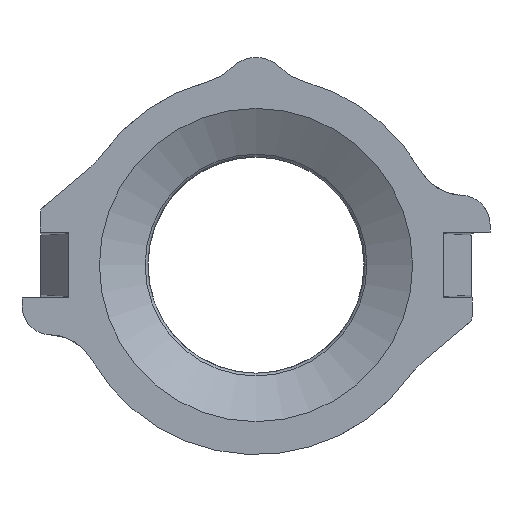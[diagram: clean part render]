
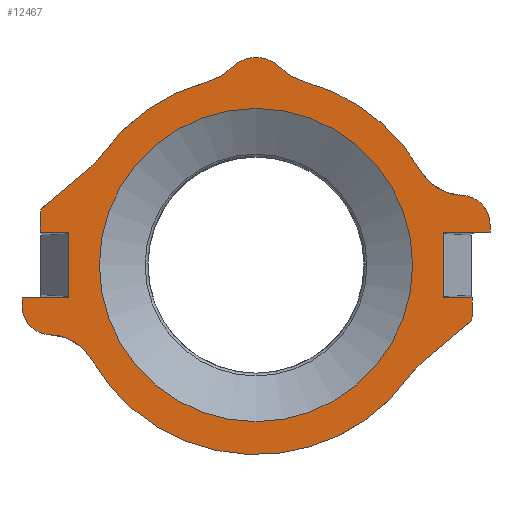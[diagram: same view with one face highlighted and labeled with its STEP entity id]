
A CAD part, top view. The second image highlights one B-rep face of the part: STEP entity #12467.
In plain terms, the highlighted planar face has unit normal (0, 0, 1).
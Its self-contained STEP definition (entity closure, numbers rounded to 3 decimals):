
#71=ELLIPSE('',#13084,0.7,0.7);
#72=ELLIPSE('',#13090,0.7,0.7);
#207=CIRCLE('',#12925,13.051);
#210=CIRCLE('',#12929,2.8);
#274=CIRCLE('',#13072,5.);
#278=CIRCLE('',#13078,5.);
#279=CIRCLE('',#13080,2.404);
#280=CIRCLE('',#13081,4.2);
#281=CIRCLE('',#13082,15.8);
#282=CIRCLE('',#13083,5.1);
#283=CIRCLE('',#13085,2.404);
#284=CIRCLE('',#13086,4.2);
#285=CIRCLE('',#13087,15.8);
#286=CIRCLE('',#13088,15.8);
#287=CIRCLE('',#13089,5.1);
#638=LINE('',#17059,#1326);
#643=LINE('',#17070,#1331);
#681=LINE('',#17354,#1369);
#687=LINE('',#17365,#1375);
#703=LINE('',#17462,#1391);
#724=LINE('',#17545,#1412);
#740=LINE('',#17582,#1428);
#757=LINE('',#17681,#1445);
#777=LINE('',#17794,#1465);
#778=LINE('',#17804,#1466);
#779=LINE('',#17808,#1467);
#780=LINE('',#17818,#1468);
#1326=VECTOR('',#14002,1000.);
#1331=VECTOR('',#14009,1000.);
#1369=VECTOR('',#14131,1000.);
#1375=VECTOR('',#14141,1000.);
#1391=VECTOR('',#14201,1000.);
#1412=VECTOR('',#14260,1000.);
#1428=VECTOR('',#14294,1000.);
#1445=VECTOR('',#14357,1000.);
#1465=VECTOR('',#14439,1000.);
#1466=VECTOR('',#14448,1000.);
#1467=VECTOR('',#14451,1000.);
#1468=VECTOR('',#14462,1000.);
#2020=PLANE('',#13079);
#2863=ORIENTED_EDGE('',*,*,#5435,.F.);
#2864=ORIENTED_EDGE('',*,*,#5353,.F.);
#2865=ORIENTED_EDGE('',*,*,#5170,.F.);
#2866=ORIENTED_EDGE('',*,*,#5334,.T.);
#2867=ORIENTED_EDGE('',*,*,#5388,.F.);
#2868=ORIENTED_EDGE('',*,*,#5436,.F.);
#2869=ORIENTED_EDGE('',*,*,#5437,.F.);
#2870=ORIENTED_EDGE('',*,*,#5438,.F.);
#2871=ORIENTED_EDGE('',*,*,#5439,.F.);
#2872=ORIENTED_EDGE('',*,*,#5440,.F.);
#2873=ORIENTED_EDGE('',*,*,#5441,.F.);
#2874=ORIENTED_EDGE('',*,*,#5442,.F.);
#2875=ORIENTED_EDGE('',*,*,#5259,.F.);
#2876=ORIENTED_EDGE('',*,*,#5165,.F.);
#2877=ORIENTED_EDGE('',*,*,#5265,.F.);
#2878=ORIENTED_EDGE('',*,*,#5299,.T.);
#2879=ORIENTED_EDGE('',*,*,#5443,.T.);
#2880=ORIENTED_EDGE('',*,*,#5444,.T.);
#2881=ORIENTED_EDGE('',*,*,#5445,.T.);
#2882=ORIENTED_EDGE('',*,*,#5428,.T.);
#2883=ORIENTED_EDGE('',*,*,#5161,.F.);
#2884=ORIENTED_EDGE('',*,*,#5434,.F.);
#2885=ORIENTED_EDGE('',*,*,#5446,.F.);
#2886=ORIENTED_EDGE('',*,*,#5447,.F.);
#2887=ORIENTED_EDGE('',*,*,#5448,.F.);
#2888=ORIENTED_EDGE('',*,*,#5449,.F.);
#2889=ORIENTED_EDGE('',*,*,#5157,.T.);
#5157=EDGE_CURVE('',#6515,#6515,#207,.T.);
#5161=EDGE_CURVE('',#6519,#6520,#210,.F.);
#5165=EDGE_CURVE('',#6523,#6524,#638,.T.);
#5170=EDGE_CURVE('',#6528,#6526,#643,.T.);
#5259=EDGE_CURVE('',#6524,#6605,#681,.F.);
#5265=EDGE_CURVE('',#6608,#6523,#687,.T.);
#5299=EDGE_CURVE('',#6608,#6630,#703,.F.);
#5334=EDGE_CURVE('',#6528,#6660,#724,.T.);
#5353=EDGE_CURVE('',#6526,#6672,#740,.F.);
#5388=EDGE_CURVE('',#6694,#6660,#757,.F.);
#5428=EDGE_CURVE('',#6732,#6520,#274,.F.);
#5434=EDGE_CURVE('',#6735,#6519,#278,.T.);
#5435=EDGE_CURVE('',#6672,#6736,#777,.T.);
#5436=EDGE_CURVE('',#6737,#6694,#279,.F.);
#5437=EDGE_CURVE('',#6738,#6737,#280,.T.);
#5438=EDGE_CURVE('',#6739,#6738,#281,.F.);
#5439=EDGE_CURVE('',#6740,#6739,#282,.T.);
#5440=EDGE_CURVE('',#6741,#6740,#778,.F.);
#5441=EDGE_CURVE('',#6742,#6741,#71,.F.);
#5442=EDGE_CURVE('',#6605,#6742,#779,.T.);
#5443=EDGE_CURVE('',#6630,#6743,#283,.T.);
#5444=EDGE_CURVE('',#6743,#6744,#284,.F.);
#5445=EDGE_CURVE('',#6744,#6732,#285,.T.);
#5446=EDGE_CURVE('',#6745,#6735,#286,.F.);
#5447=EDGE_CURVE('',#6746,#6745,#287,.T.);
#5448=EDGE_CURVE('',#6747,#6746,#780,.F.);
#5449=EDGE_CURVE('',#6736,#6747,#72,.F.);
#6515=VERTEX_POINT('',#17041);
#6519=VERTEX_POINT('',#17049);
#6520=VERTEX_POINT('',#17051);
#6523=VERTEX_POINT('',#17058);
#6524=VERTEX_POINT('',#17060);
#6526=VERTEX_POINT('',#17065);
#6528=VERTEX_POINT('',#17069);
#6605=VERTEX_POINT('',#17352);
#6608=VERTEX_POINT('',#17364);
#6630=VERTEX_POINT('',#17461);
#6660=VERTEX_POINT('',#17544);
#6672=VERTEX_POINT('',#17580);
#6694=VERTEX_POINT('',#17680);
#6732=VERTEX_POINT('',#17781);
#6735=VERTEX_POINT('',#17791);
#6736=VERTEX_POINT('',#17795);
#6737=VERTEX_POINT('',#17797);
#6738=VERTEX_POINT('',#17799);
#6739=VERTEX_POINT('',#17801);
#6740=VERTEX_POINT('',#17803);
#6741=VERTEX_POINT('',#17805);
#6742=VERTEX_POINT('',#17807);
#6743=VERTEX_POINT('',#17810);
#6744=VERTEX_POINT('',#17812);
#6745=VERTEX_POINT('',#17815);
#6746=VERTEX_POINT('',#17817);
#6747=VERTEX_POINT('',#17819);
#7726=EDGE_LOOP('',(#2863,#2864,#2865,#2866,#2867,#2868,#2869,#2870,#2871,
#2872,#2873,#2874,#2875,#2876,#2877,#2878,#2879,#2880,#2881,#2882,#2883,
#2884,#2885,#2886,#2887,#2888));
#7727=EDGE_LOOP('',(#2889));
#8261=FACE_BOUND('',#7726,.T.);
#8262=FACE_BOUND('',#7727,.T.);
#12467=ADVANCED_FACE('',(#8261,#8262),#2020,.T.);
#12925=AXIS2_PLACEMENT_3D('',#17040,#13986,#13987);
#12929=AXIS2_PLACEMENT_3D('',#17050,#13995,#13996);
#13072=AXIS2_PLACEMENT_3D('',#17780,#14421,#14422);
#13078=AXIS2_PLACEMENT_3D('',#17792,#14435,#14436);
#13079=AXIS2_PLACEMENT_3D('',#17793,#14437,#14438);
#13080=AXIS2_PLACEMENT_3D('',#17796,#14440,#14441);
#13081=AXIS2_PLACEMENT_3D('',#17798,#14442,#14443);
#13082=AXIS2_PLACEMENT_3D('',#17800,#14444,#14445);
#13083=AXIS2_PLACEMENT_3D('',#17802,#14446,#14447);
#13084=AXIS2_PLACEMENT_3D('',#17806,#14449,#14450);
#13085=AXIS2_PLACEMENT_3D('',#17809,#14452,#14453);
#13086=AXIS2_PLACEMENT_3D('',#17811,#14454,#14455);
#13087=AXIS2_PLACEMENT_3D('',#17813,#14456,#14457);
#13088=AXIS2_PLACEMENT_3D('',#17814,#14458,#14459);
#13089=AXIS2_PLACEMENT_3D('',#17816,#14460,#14461);
#13090=AXIS2_PLACEMENT_3D('',#17820,#14463,#14464);
#13986=DIRECTION('',(0.,0.,-1.));
#13987=DIRECTION('',(-1.,0.,0.));
#13995=DIRECTION('',(0.,0.,1.));
#13996=DIRECTION('',(1.,0.,0.));
#14002=DIRECTION('',(0.,-1.,0.));
#14009=DIRECTION('',(0.,1.,0.));
#14131=DIRECTION('',(-1.,0.,0.));
#14141=DIRECTION('',(-1.,0.,0.));
#14201=DIRECTION('',(0.,-1.,0.));
#14260=DIRECTION('',(-1.,0.,0.));
#14294=DIRECTION('',(1.,0.,0.));
#14357=DIRECTION('',(0.,-1.,0.));
#14421=DIRECTION('',(0.,0.,1.));
#14422=DIRECTION('',(1.,0.,0.));
#14435=DIRECTION('',(0.,0.,1.));
#14436=DIRECTION('',(1.,0.,0.));
#14437=DIRECTION('',(0.,0.,1.));
#14438=DIRECTION('',(1.,0.,0.));
#14439=DIRECTION('',(0.,1.,0.));
#14440=DIRECTION('',(0.,0.,1.));
#14441=DIRECTION('',(1.,0.,0.));
#14442=DIRECTION('',(0.,0.,1.));
#14443=DIRECTION('',(1.,0.,0.));
#14444=DIRECTION('',(0.,0.,1.));
#14445=DIRECTION('',(1.,0.,0.));
#14446=DIRECTION('',(0.,0.,1.));
#14447=DIRECTION('',(1.,0.,0.));
#14448=DIRECTION('',(0.766,0.643,0.));
#14449=DIRECTION('',(0.,0.,1.));
#14450=DIRECTION('',(0.766,0.643,0.));
#14451=DIRECTION('',(0.,-1.,0.));
#14452=DIRECTION('',(0.,0.,1.));
#14453=DIRECTION('',(1.,0.,0.));
#14454=DIRECTION('',(0.,0.,1.));
#14455=DIRECTION('',(1.,0.,0.));
#14456=DIRECTION('',(0.,0.,1.));
#14457=DIRECTION('',(1.,0.,0.));
#14458=DIRECTION('',(0.,0.,1.));
#14459=DIRECTION('',(1.,0.,0.));
#14460=DIRECTION('',(0.,0.,1.));
#14461=DIRECTION('',(1.,0.,0.));
#14462=DIRECTION('',(-0.766,-0.643,0.));
#14463=DIRECTION('',(0.,0.,1.));
#14464=DIRECTION('',(-0.766,-0.643,0.));
#17040=CARTESIAN_POINT('',(0.,0.,4.1));
#17041=CARTESIAN_POINT('',(-13.051,0.,4.1));
#17049=CARTESIAN_POINT('',(-1.96,16.5,4.1));
#17050=CARTESIAN_POINT('',(0.,14.5,4.1));
#17051=CARTESIAN_POINT('',(1.96,16.5,4.1));
#17058=CARTESIAN_POINT('',(15.6,2.736,4.1));
#17059=CARTESIAN_POINT('',(15.6,-15.8,4.1));
#17060=CARTESIAN_POINT('',(15.6,-2.736,4.1));
#17065=CARTESIAN_POINT('',(-15.6,2.736,4.1));
#17069=CARTESIAN_POINT('',(-15.6,-2.736,4.1));
#17070=CARTESIAN_POINT('',(-15.6,-15.8,4.1));
#17352=CARTESIAN_POINT('',(18.,-2.736,4.1));
#17354=CARTESIAN_POINT('',(0.,-2.736,4.1));
#17364=CARTESIAN_POINT('',(19.5,2.736,4.1));
#17365=CARTESIAN_POINT('',(0.,2.736,4.1));
#17461=CARTESIAN_POINT('',(19.5,3.4,4.1));
#17462=CARTESIAN_POINT('',(19.5,0.,4.1));
#17544=CARTESIAN_POINT('',(-19.5,-2.736,4.1));
#17545=CARTESIAN_POINT('',(0.,-2.736,4.1));
#17580=CARTESIAN_POINT('',(-18.,2.736,4.1));
#17582=CARTESIAN_POINT('',(0.,2.736,4.1));
#17680=CARTESIAN_POINT('',(-19.5,-3.4,4.1));
#17681=CARTESIAN_POINT('',(-19.5,-15.8,4.1));
#17780=CARTESIAN_POINT('',(5.46,20.071,4.1));
#17781=CARTESIAN_POINT('',(4.147,15.246,4.1));
#17791=CARTESIAN_POINT('',(-4.147,15.246,4.1));
#17792=CARTESIAN_POINT('',(-5.46,20.071,4.1));
#17793=CARTESIAN_POINT('',(0.,-15.8,4.1));
#17794=CARTESIAN_POINT('',(-18.,-15.8,4.1));
#17795=CARTESIAN_POINT('',(-18.,4.3,4.1));
#17796=CARTESIAN_POINT('',(-17.096,-3.4,4.1));
#17797=CARTESIAN_POINT('',(-17.178,-5.802,4.1));
#17798=CARTESIAN_POINT('',(-17.321,-10.,4.1));
#17799=CARTESIAN_POINT('',(-13.683,-7.9,4.1));
#17800=CARTESIAN_POINT('',(0.,0.,4.1));
#17801=CARTESIAN_POINT('',(12.898,-9.126,4.1));
#17802=CARTESIAN_POINT('',(17.061,-12.072,4.1));
#17803=CARTESIAN_POINT('',(13.783,-8.165,4.1));
#17804=CARTESIAN_POINT('',(1.935,-18.106,4.1));
#17805=CARTESIAN_POINT('',(17.75,-4.836,4.1));
#17806=CARTESIAN_POINT('',(17.3,-4.3,4.1));
#17807=CARTESIAN_POINT('',(18.,-4.3,4.1));
#17808=CARTESIAN_POINT('',(18.,-15.8,4.1));
#17809=CARTESIAN_POINT('',(17.096,3.4,4.1));
#17810=CARTESIAN_POINT('',(17.178,5.802,4.1));
#17811=CARTESIAN_POINT('',(17.321,10.,4.1));
#17812=CARTESIAN_POINT('',(13.683,7.9,4.1));
#17813=CARTESIAN_POINT('',(0.,0.,4.1));
#17814=CARTESIAN_POINT('',(0.,0.,4.1));
#17815=CARTESIAN_POINT('',(-12.898,9.126,4.1));
#17816=CARTESIAN_POINT('',(-17.061,12.072,4.1));
#17817=CARTESIAN_POINT('',(-13.783,8.165,4.1));
#17818=CARTESIAN_POINT('',(-17.495,5.05,4.1));
#17819=CARTESIAN_POINT('',(-17.75,4.836,4.1));
#17820=CARTESIAN_POINT('',(-17.3,4.3,4.1));
